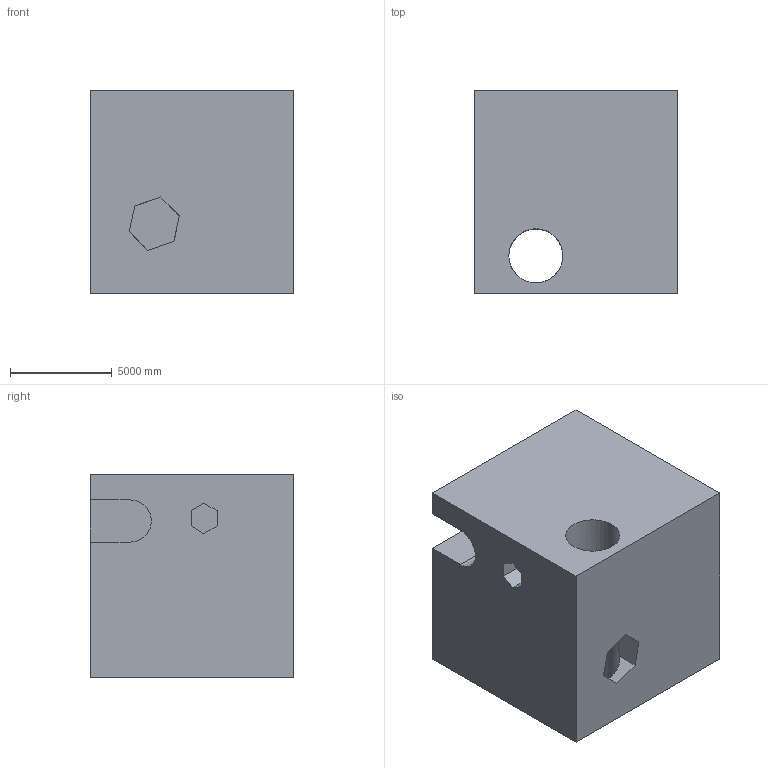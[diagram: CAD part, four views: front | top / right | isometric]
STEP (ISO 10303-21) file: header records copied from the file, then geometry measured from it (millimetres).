
FILE_DESCRIPTION (( 'STEP AP203' ), '1' );
FILE_NAME ('35.STEP', '2022-08-30T14:07:00', ( 'user' ), ( '' ), 'SwSTEP 2.0', 'SolidWorks 2021', '' );
FILE_SCHEMA (( 'CONFIG_CONTROL_DESIGN' ));
Length unit declared in the file: centimetre
Products named in the file (1): 35
Bounding box: 10000 x 10000 x 10000 mm (x, y, z)
Volume: 893291738520.4 mm3; surface area: 736776409.1 mm2
Topology: 1 solids, 1 shells, 30 faces, 84 edges, 56 vertices
Faces by surface type: plane 27, cylinder 3
Entity records: 1039 total; most frequent: CARTESIAN_POINT 207, ORIENTED_EDGE 168, DIRECTION 140, EDGE_CURVE 84, LINE 66, VECTOR 66, VERTEX_POINT 56, AXIS2_PLACEMENT_3D 37
